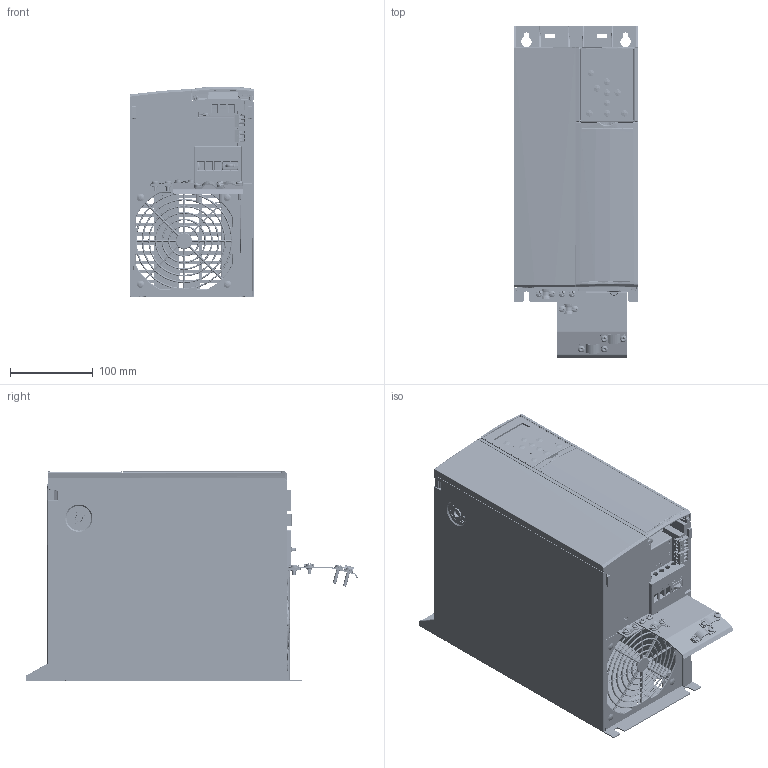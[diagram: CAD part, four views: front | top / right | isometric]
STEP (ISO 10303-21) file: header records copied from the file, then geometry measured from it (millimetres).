
FILE_DESCRIPTION((''),'2;1');
FILE_NAME('H5-IP20_ASM_ASM','2012-01-11T',('U255134'),('Danfoss Power Electronics'),'PRO/ENGINEER BY PARAMETRIC TECHNOLOGY CORPORATION, 2010370','PRO/ENGINEER BY PARAMETRIC TECHNOLOGY CORPORATION, 2010370','');
FILE_SCHEMA(('CONFIG_CONTROL_DESIGN', 'GEOMETRIC_VALIDATION_PROPERTIES_MIM'));
Products named in the file (26): 132B4115; 132B3409; 132B3404; 132B4121; 132B4120; 132B4148_UMSH-8244JN-F; LCD_LIGHTGUIDE_ASM_ASM; 132B4142; 132B4296; 132B9105_ASM_ASM; 132B3428; 132B3462; 681X0366; 681X0488; 132B3461; 132B3460; 132B3459_ASM_ASM; 132B5733; 132B5733_ASM_ASM; 132B5734; 132B5734_ASM_ASM; 132B3419; 132B3423_ASM_ASM; 132B4136; 132B4140; H5-IP20_ASM_ASM
Assembly tree (37 placements, depth 4):
  H5-IP20_ASM_ASM
    132B4115
    132B3409
    132B3404
    132B4121
    132B4120
    132B9105_ASM_ASM
      LCD_LIGHTGUIDE_ASM_ASM
        132B4148_UMSH-8244JN-F
      132B4142
      132B4296
    132B3459_ASM_ASM
      132B3428
      132B3462
      681X0366  x4
      681X0488  x4
      132B3461
      132B3460
    132B5733_ASM_ASM
      132B5733
    132B5734_ASM_ASM
      132B5734
    132B3423_ASM_ASM
      132B3419
      132B3461
      681X0488  x2
    132B4136
    132B3461
    681X0488  x2
    132B4140
Bounding box: 150 x 401.87 x 255.31 mm (x, y, z)
Volume: 962128.7 mm3; surface area: 939170.9 mm2
Topology: 30 solids, 81 shells, 19050 faces, 52649 edges, 33758 vertices
Faces by surface type: plane 13087, cylinder 3443, bspline 1189, sphere 545, torus 407, cone 379
Entity records: 807170 total; most frequent: CARTESIAN_POINT 246954, ORIENTED_EDGE 101235, DIRECTION 82014, EDGE_CURVE 50963, VERTEX_POINT 32883, VECTOR 32134, LINE 32134, PRESENTATION_STYLE_ASSIGNMENT 26198
